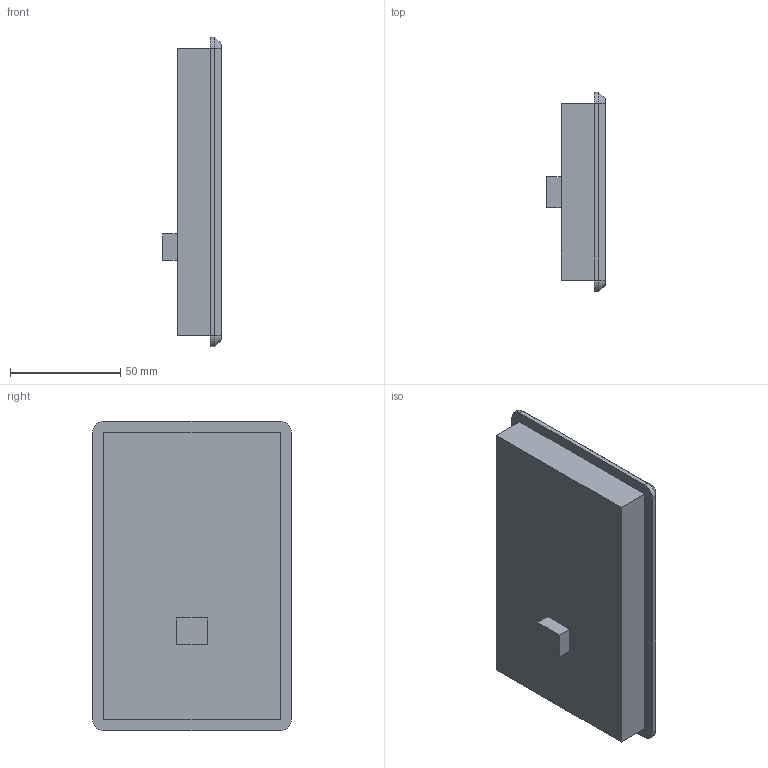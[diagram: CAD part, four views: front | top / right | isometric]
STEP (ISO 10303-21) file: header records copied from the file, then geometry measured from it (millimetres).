
FILE_DESCRIPTION(('STEP AP203'), '1');
FILE_NAME('Ïàíåëü óïðàâëåíèÿ _ SBIM', '', ('UNSPECIFIED'), ('UNSPECIFIED'), 'C3D Converter', 'C3D Toolkit', '');
FILE_SCHEMA(('CONFIG_CONTROL_DESIGN'));
Length unit declared in the file: millimetre
Products named in the file (1): SBIM
Bounding box: 26.5 x 90 x 140 mm (x, y, z)
Volume: 217981.6 mm3; surface area: 33247.1 mm2
Topology: 1 solids, 1 shells, 28 faces, 64 edges, 40 vertices
Faces by surface type: plane 20, cylinder 4, cone 4
Entity records: 1040 total; most frequent: DIRECTION 134, CARTESIAN_POINT 133, ORIENTED_EDGE 128, EDGE_CURVE 64, LINE 52, VECTOR 52, AXIS2_PLACEMENT_3D 41, VERTEX_POINT 40
